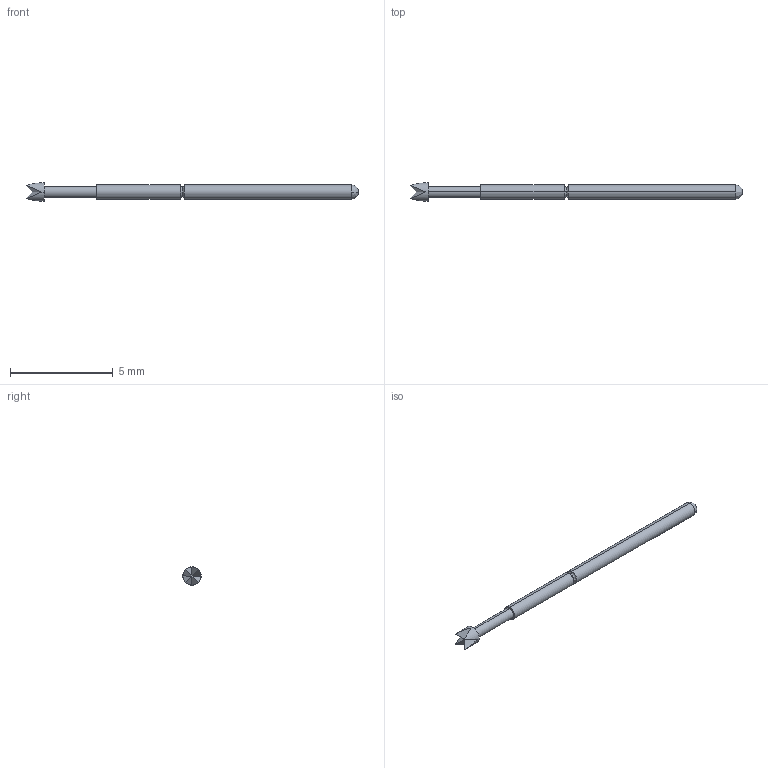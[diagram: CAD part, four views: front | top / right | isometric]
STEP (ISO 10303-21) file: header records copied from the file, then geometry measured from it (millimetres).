
FILE_DESCRIPTION (( 'STEP AP214' ), '1' );
FILE_NAME ('PA1Q.STEP', '2021-08-24T13:55:51', ( '' ), ( '' ), 'SwSTEP 2.0', 'SolidWorks 2021', '' );
FILE_SCHEMA (( 'AUTOMOTIVE_DESIGN' ));
Length unit declared in the file: inch
Products named in the file (1): PA1Q
Bounding box: 16.13 x 0.89 x 0.89 mm (x, y, z)
Volume: 5.5 mm3; surface area: 35.3 mm2
Topology: 1 solids, 1 shells, 25 faces, 50 edges, 29 vertices
Faces by surface type: plane 11, cylinder 8, bspline 6
Entity records: 1073 total; most frequent: CARTESIAN_POINT 231, ORIENTED_EDGE 100, DIRECTION 100, EDGE_CURVE 50, AXIS2_PLACEMENT_3D 42, VERTEX_POINT 29, LENGTH_MEASURE_WITH_UNIT 28, DIMENSIONAL_EXPONENTS 28
